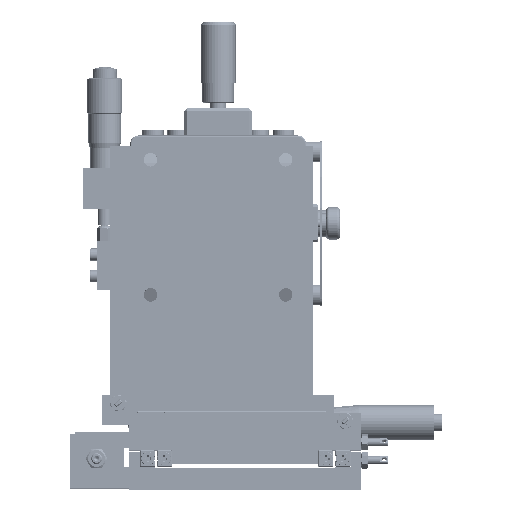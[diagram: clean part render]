
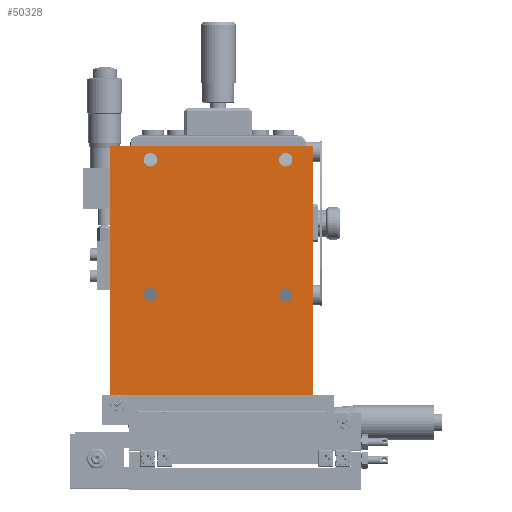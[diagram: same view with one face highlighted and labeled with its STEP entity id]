
A CAD part, top view. The second image highlights one B-rep face of the part: STEP entity #50328.
In plain terms, the highlighted planar face has unit normal (0, 0, 1) as drawn and (0, -1, 0) by its records, which use the part's own axes.
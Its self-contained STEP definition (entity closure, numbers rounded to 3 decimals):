
#909 = CARTESIAN_POINT ( 'NONE',  ( -22.5, 0., 41. ) ) ;
#914 = CIRCLE ( 'NONE', #52171, 2.5 ) ;
#1855 = DIRECTION ( 'NONE',  ( 0., 1., 0. ) ) ;
#2329 = DIRECTION ( 'NONE',  ( 0., 0., 1. ) ) ;
#3925 = ORIENTED_EDGE ( 'NONE', *, *, #32540, .F. ) ;
#5682 = LINE ( 'NONE', #78008, #105638 ) ;
#5973 = CIRCLE ( 'NONE', #65883, 2.5 ) ;
#6066 = DIRECTION ( 'NONE',  ( 0., 0., 1. ) ) ;
#6365 = VERTEX_POINT ( 'NONE', #28932 ) ;
#6616 = EDGE_CURVE ( 'NONE', #29122, #68739, #53313, .T. ) ;
#7094 = EDGE_CURVE ( 'NONE', #90884, #14358, #72220, .T. ) ;
#9439 = DIRECTION ( 'NONE',  ( 0., 0., 1. ) ) ;
#9749 = DIRECTION ( 'NONE',  ( 0., 0., 1. ) ) ;
#9953 = DIRECTION ( 'NONE',  ( 0., 0., 1. ) ) ;
#11415 = CARTESIAN_POINT ( 'NONE',  ( 27.5, 0., 41. ) ) ;
#11542 = DIRECTION ( 'NONE',  ( 0., 1., 0. ) ) ;
#11702 = VECTOR ( 'NONE', #34421, 1000. ) ;
#12265 = DIRECTION ( 'NONE',  ( 0., 0., 1. ) ) ;
#12623 = AXIS2_PLACEMENT_3D ( 'NONE', #48312, #88509, #56893 ) ;
#12738 = ORIENTED_EDGE ( 'NONE', *, *, #105734, .T. ) ;
#12758 = EDGE_LOOP ( 'NONE', ( #72629, #16076 ) ) ;
#13559 = LINE ( 'NONE', #94481, #72800 ) ;
#14358 = VERTEX_POINT ( 'NONE', #45425 ) ;
#16076 = ORIENTED_EDGE ( 'NONE', *, *, #61978, .T. ) ;
#16223 = EDGE_CURVE ( 'NONE', #43665, #64733, #99807, .T. ) ;
#18013 = DIRECTION ( 'NONE',  ( 0., 1., 0. ) ) ;
#24520 = ORIENTED_EDGE ( 'NONE', *, *, #42682, .T. ) ;
#25186 = ORIENTED_EDGE ( 'NONE', *, *, #31882, .T. ) ;
#26034 = CIRCLE ( 'NONE', #29418, 2.5 ) ;
#27505 = VERTEX_POINT ( 'NONE', #45616 ) ;
#28932 = CARTESIAN_POINT ( 'NONE',  ( 37.5, 0., -46. ) ) ;
#29122 = VERTEX_POINT ( 'NONE', #103441 ) ;
#29418 = AXIS2_PLACEMENT_3D ( 'NONE', #909, #66273, #9439 ) ;
#29627 = DIRECTION ( 'NONE',  ( 0., 1., 0. ) ) ;
#31829 = ORIENTED_EDGE ( 'NONE', *, *, #16223, .F. ) ;
#31882 = EDGE_CURVE ( 'NONE', #27505, #53349, #5973, .T. ) ;
#32424 = EDGE_CURVE ( 'NONE', #6365, #69074, #82746, .T. ) ;
#32524 = AXIS2_PLACEMENT_3D ( 'NONE', #75691, #58530, #2329 ) ;
#32540 = EDGE_CURVE ( 'NONE', #69074, #43665, #13559, .T. ) ;
#33458 = EDGE_LOOP ( 'NONE', ( #25186, #40763 ) ) ;
#34062 = AXIS2_PLACEMENT_3D ( 'NONE', #77100, #62584, #12265 ) ;
#34421 = DIRECTION ( 'NONE',  ( 1., 0., 0. ) ) ;
#36079 = DIRECTION ( 'NONE',  ( 0., 0., 1. ) ) ;
#37122 = CARTESIAN_POINT ( 'NONE',  ( 27.5, 0., -9. ) ) ;
#40763 = ORIENTED_EDGE ( 'NONE', *, *, #72294, .T. ) ;
#40885 = FACE_BOUND ( 'NONE', #94026, .T. ) ;
#41931 = FACE_OUTER_BOUND ( 'NONE', #77914, .T. ) ;
#42218 = ORIENTED_EDGE ( 'NONE', *, *, #98980, .F. ) ;
#42682 = EDGE_CURVE ( 'NONE', #73922, #73741, #26034, .T. ) ;
#43422 = EDGE_CURVE ( 'NONE', #73741, #73922, #58793, .T. ) ;
#43665 = VERTEX_POINT ( 'NONE', #104326 ) ;
#44234 = CARTESIAN_POINT ( 'NONE',  ( -22.5, 0., -9. ) ) ;
#45425 = CARTESIAN_POINT ( 'NONE',  ( 27.5, 0., -11.5 ) ) ;
#45616 = CARTESIAN_POINT ( 'NONE',  ( -22.5, 0., -6.5 ) ) ;
#48312 = CARTESIAN_POINT ( 'NONE',  ( -22.5, 0., 41. ) ) ;
#49688 = CARTESIAN_POINT ( 'NONE',  ( -22.5, 0., -11.5 ) ) ;
#50328 = ADVANCED_FACE ( 'NONE', ( #40885, #98224, #57994, #65587, #41931 ), #91219, .F. ) ;
#50454 = DIRECTION ( 'NONE',  ( 0., 1., 0. ) ) ;
#50977 = CARTESIAN_POINT ( 'NONE',  ( 27.5, 0., -9. ) ) ;
#51087 = DIRECTION ( 'NONE',  ( -1., 0., 0. ) ) ;
#52171 = AXIS2_PLACEMENT_3D ( 'NONE', #50977, #50454, #9749 ) ;
#53313 = CIRCLE ( 'NONE', #56663, 2.5 ) ;
#53349 = VERTEX_POINT ( 'NONE', #49688 ) ;
#54552 = CIRCLE ( 'NONE', #34062, 2.5 ) ;
#54932 = CARTESIAN_POINT ( 'NONE',  ( 27.5, 0., -6.5 ) ) ;
#56663 = AXIS2_PLACEMENT_3D ( 'NONE', #104445, #11542, #9953 ) ;
#56893 = DIRECTION ( 'NONE',  ( 0., 0., 1. ) ) ;
#57994 = FACE_BOUND ( 'NONE', #12758, .T. ) ;
#58530 = DIRECTION ( 'NONE',  ( 0., 1., 0. ) ) ;
#58793 = CIRCLE ( 'NONE', #12623, 2.5 ) ;
#61978 = EDGE_CURVE ( 'NONE', #14358, #90884, #914, .T. ) ;
#62584 = DIRECTION ( 'NONE',  ( 0., 1., 0. ) ) ;
#64733 = VERTEX_POINT ( 'NONE', #104858 ) ;
#65587 = FACE_BOUND ( 'NONE', #77445, .T. ) ;
#65883 = AXIS2_PLACEMENT_3D ( 'NONE', #44234, #18013, #83936 ) ;
#66273 = DIRECTION ( 'NONE',  ( 0., 1., 0. ) ) ;
#66628 = CARTESIAN_POINT ( 'NONE',  ( -37.5, 0., 46. ) ) ;
#68739 = VERTEX_POINT ( 'NONE', #72436 ) ;
#69074 = VERTEX_POINT ( 'NONE', #70222 ) ;
#70222 = CARTESIAN_POINT ( 'NONE',  ( -37.5, 0., -46. ) ) ;
#72220 = CIRCLE ( 'NONE', #84143, 2.5 ) ;
#72294 = EDGE_CURVE ( 'NONE', #53349, #27505, #54552, .T. ) ;
#72436 = CARTESIAN_POINT ( 'NONE',  ( 27.5, 0., 38.5 ) ) ;
#72629 = ORIENTED_EDGE ( 'NONE', *, *, #7094, .T. ) ;
#72800 = VECTOR ( 'NONE', #6066, 1000. ) ;
#73741 = VERTEX_POINT ( 'NONE', #74848 ) ;
#73922 = VERTEX_POINT ( 'NONE', #90266 ) ;
#74848 = CARTESIAN_POINT ( 'NONE',  ( -22.5, 0., 43.5 ) ) ;
#75691 = CARTESIAN_POINT ( 'NONE',  ( 0., 0., 0. ) ) ;
#76156 = VECTOR ( 'NONE', #51087, 1000. ) ;
#77100 = CARTESIAN_POINT ( 'NONE',  ( -22.5, 0., -9. ) ) ;
#77445 = EDGE_LOOP ( 'NONE', ( #82175, #12738 ) ) ;
#77853 = ORIENTED_EDGE ( 'NONE', *, *, #32424, .F. ) ;
#77914 = EDGE_LOOP ( 'NONE', ( #42218, #31829, #3925, #77853 ) ) ;
#78008 = CARTESIAN_POINT ( 'NONE',  ( 37.5, 0., -46. ) ) ;
#82175 = ORIENTED_EDGE ( 'NONE', *, *, #6616, .T. ) ;
#82746 = LINE ( 'NONE', #91811, #76156 ) ;
#83936 = DIRECTION ( 'NONE',  ( 0., 0., 1. ) ) ;
#84143 = AXIS2_PLACEMENT_3D ( 'NONE', #37122, #29627, #95488 ) ;
#88509 = DIRECTION ( 'NONE',  ( 0., 1., 0. ) ) ;
#90266 = CARTESIAN_POINT ( 'NONE',  ( -22.5, 0., 38.5 ) ) ;
#90884 = VERTEX_POINT ( 'NONE', #54932 ) ;
#91219 = PLANE ( 'NONE',  #32524 ) ;
#91811 = CARTESIAN_POINT ( 'NONE',  ( -37.5, 0., -46. ) ) ;
#92622 = AXIS2_PLACEMENT_3D ( 'NONE', #11415, #1855, #36079 ) ;
#94026 = EDGE_LOOP ( 'NONE', ( #96941, #24520 ) ) ;
#94481 = CARTESIAN_POINT ( 'NONE',  ( -37.5, 0., -46. ) ) ;
#94605 = DIRECTION ( 'NONE',  ( 0., 0., -1. ) ) ;
#95488 = DIRECTION ( 'NONE',  ( 0., 0., 1. ) ) ;
#96941 = ORIENTED_EDGE ( 'NONE', *, *, #43422, .T. ) ;
#98224 = FACE_BOUND ( 'NONE', #33458, .T. ) ;
#98980 = EDGE_CURVE ( 'NONE', #64733, #6365, #5682, .T. ) ;
#99528 = CIRCLE ( 'NONE', #92622, 2.5 ) ;
#99807 = LINE ( 'NONE', #66628, #11702 ) ;
#103441 = CARTESIAN_POINT ( 'NONE',  ( 27.5, 0., 43.5 ) ) ;
#104326 = CARTESIAN_POINT ( 'NONE',  ( -37.5, 0., 46. ) ) ;
#104445 = CARTESIAN_POINT ( 'NONE',  ( 27.5, 0., 41. ) ) ;
#104858 = CARTESIAN_POINT ( 'NONE',  ( 37.5, 0., 46. ) ) ;
#105638 = VECTOR ( 'NONE', #94605, 1000. ) ;
#105734 = EDGE_CURVE ( 'NONE', #68739, #29122, #99528, .T. ) ;
